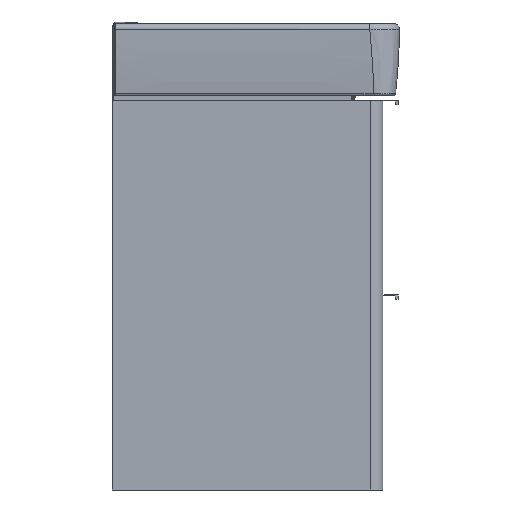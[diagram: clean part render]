
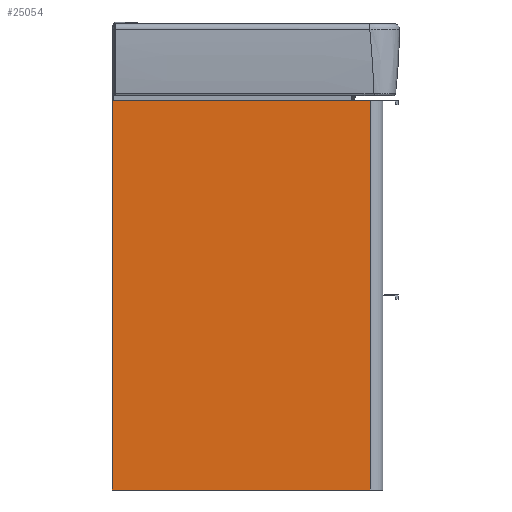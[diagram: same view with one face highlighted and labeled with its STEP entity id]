
A CAD part, left-side view. The second image highlights one B-rep face of the part: STEP entity #25054.
In plain terms, the highlighted planar face has unit normal (-1, 0, 0).
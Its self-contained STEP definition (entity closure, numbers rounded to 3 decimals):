
#5368=FACE_OUTER_BOUND('',#6330,.T.);
#6330=EDGE_LOOP('',(#18869,#18870,#18871,#18872));
#7440=LINE('',#32727,#8959);
#7442=LINE('',#32733,#8961);
#7446=LINE('',#32741,#8965);
#7447=LINE('',#32742,#8966);
#8959=VECTOR('',#28083,10.);
#8961=VECTOR('',#28089,10.);
#8965=VECTOR('',#28095,10.);
#8966=VECTOR('',#28096,10.);
#10468=VERTEX_POINT('',#32724);
#10469=VERTEX_POINT('',#32726);
#10471=VERTEX_POINT('',#32732);
#10474=VERTEX_POINT('',#32740);
#14436=EDGE_CURVE('',#10468,#10469,#7440,.T.);
#14439=EDGE_CURVE('',#10469,#10471,#7442,.T.);
#14443=EDGE_CURVE('',#10474,#10468,#7446,.T.);
#14444=EDGE_CURVE('',#10471,#10474,#7447,.T.);
#18869=ORIENTED_EDGE('',*,*,#14436,.F.);
#18870=ORIENTED_EDGE('',*,*,#14443,.F.);
#18871=ORIENTED_EDGE('',*,*,#14444,.F.);
#18872=ORIENTED_EDGE('',*,*,#14439,.F.);
#24564=PLANE('',#26458);
#25054=ADVANCED_FACE('',(#5368),#24564,.T.);
#26458=AXIS2_PLACEMENT_3D('',#32739,#28093,#28094);
#28083=DIRECTION('',(0.,0.,-1.));
#28089=DIRECTION('',(0.,1.,0.));
#28093=DIRECTION('center_axis',(-1.,0.,0.));
#28094=DIRECTION('ref_axis',(0.,-1.,0.));
#28095=DIRECTION('',(0.,-1.,0.));
#28096=DIRECTION('',(0.,0.,1.));
#32724=CARTESIAN_POINT('',(-260.,-162.,515.));
#32726=CARTESIAN_POINT('',(-260.,-162.,0.));
#32727=CARTESIAN_POINT('',(-260.,-162.,0.));
#32732=CARTESIAN_POINT('',(-260.,179.,0.));
#32733=CARTESIAN_POINT('',(-260.,-179.,0.));
#32739=CARTESIAN_POINT('Origin',(-260.,179.,0.));
#32740=CARTESIAN_POINT('',(-260.,179.,515.));
#32741=CARTESIAN_POINT('',(-260.,-179.,515.));
#32742=CARTESIAN_POINT('',(-260.,179.,0.));
